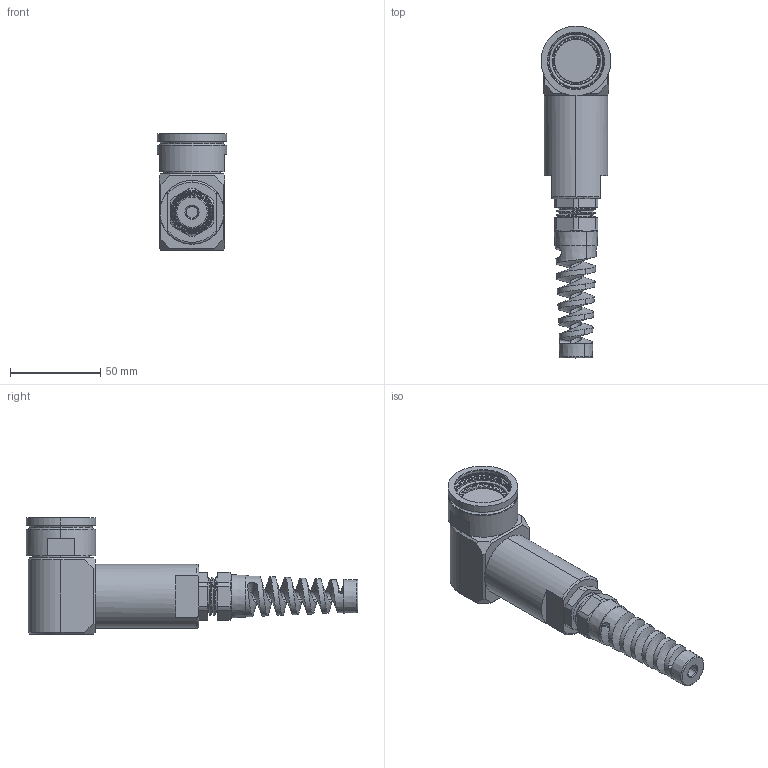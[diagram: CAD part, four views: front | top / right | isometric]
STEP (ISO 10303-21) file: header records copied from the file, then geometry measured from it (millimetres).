
FILE_DESCRIPTION (( 'STEP AP214' ), '1' );
FILE_NAME ('Q38EBSHELL-90X-21-XXXX-GB.STEP', '2025-09-22T15:15:31', ( '' ), ( '' ), 'SwSTEP 2.0', 'SolidWorks 2024', '' );
FILE_SCHEMA (( 'AUTOMOTIVE_DESIGN' ));
Length unit declared in the file: millimetre
Products named in the file (1): Q38EBSHELL-90X-21-XXXX-GB
Bounding box: 38.58 x 183.72 x 64.41 mm (x, y, z)
Volume: 143417.9 mm3; surface area: 30885.3 mm2
Topology: 2 solids, 4 shells, 339 faces, 1035 edges, 721 vertices
Faces by surface type: plane 190, cylinder 79, cone 44, torus 13, bspline 13
Entity records: 18453 total; most frequent: CARTESIAN_POINT 9803, ORIENTED_EDGE 2070, DIRECTION 1565, EDGE_CURVE 1035, VERTEX_POINT 721, AXIS2_PLACEMENT_3D 622, EDGE_LOOP 360, ADVANCED_FACE 339
